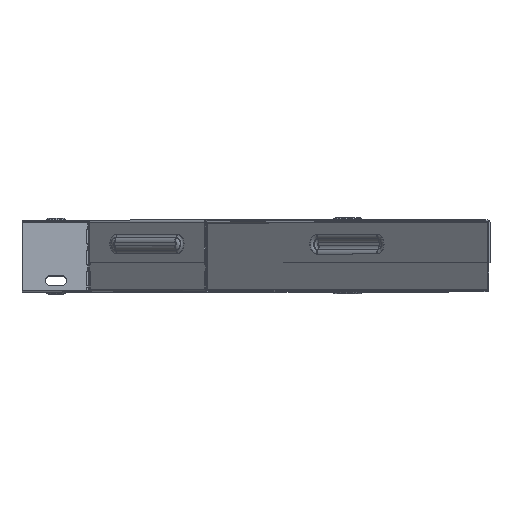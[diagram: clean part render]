
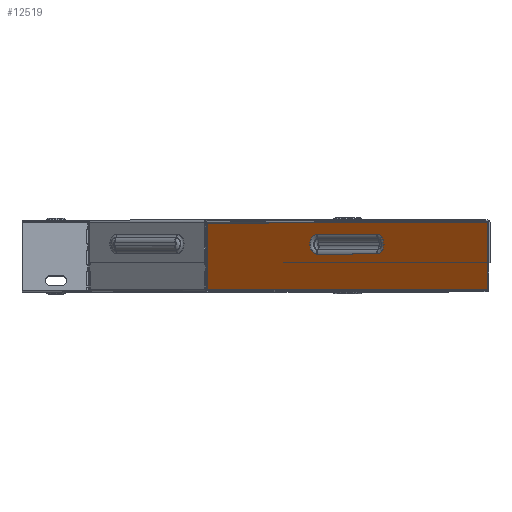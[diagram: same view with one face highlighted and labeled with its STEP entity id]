
A CAD part, top view. The second image highlights one B-rep face of the part: STEP entity #12519.
In plain terms, the highlighted planar face has unit normal (-0.707, 0, 0.707).
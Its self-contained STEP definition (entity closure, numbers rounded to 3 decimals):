
#365 = AXIS2_PLACEMENT_3D ( 'NONE', #15563, #9022, #11805 ) ;
#528 = ORIENTED_EDGE ( 'NONE', *, *, #14584, .F. ) ;
#778 = EDGE_CURVE ( 'NONE', #6801, #16542, #1925, .T. ) ;
#874 = LINE ( 'NONE', #6938, #10583 ) ;
#1364 = CARTESIAN_POINT ( 'NONE',  ( -35.255, 48.2, -164.123 ) ) ;
#1521 = ORIENTED_EDGE ( 'NONE', *, *, #1558, .F. ) ;
#1558 = EDGE_CURVE ( 'NONE', #13338, #8564, #8476, .T. ) ;
#1616 = LINE ( 'NONE', #14386, #16019 ) ;
#1640 = EDGE_CURVE ( 'NONE', #9270, #16183, #9327, .T. ) ;
#1674 = VECTOR ( 'NONE', #9017, 1000. ) ;
#1706 = DIRECTION ( 'NONE',  ( -0.707, 0., 0.707 ) ) ;
#1925 = LINE ( 'NONE', #5452, #15510 ) ;
#2412 = CARTESIAN_POINT ( 'NONE',  ( 85.648, 40.017, -43.221 ) ) ;
#2466 = ORIENTED_EDGE ( 'NONE', *, *, #778, .F. ) ;
#4251 = ORIENTED_EDGE ( 'NONE', *, *, #1640, .T. ) ;
#4671 = EDGE_LOOP ( 'NONE', ( #9967, #4251, #11336, #2466 ) ) ;
#4998 = VECTOR ( 'NONE', #14110, 1000. ) ;
#5002 = CARTESIAN_POINT ( 'NONE',  ( 43.221, 40.017, -85.648 ) ) ;
#5452 = CARTESIAN_POINT ( 'NONE',  ( -35.255, 0., -164.123 ) ) ;
#5974 = DIRECTION ( 'NONE',  ( 0.707, 0., 0.707 ) ) ;
#6080 = CARTESIAN_POINT ( 'NONE',  ( 43.221, 33.1, -85.648 ) ) ;
#6341 = CARTESIAN_POINT ( 'NONE',  ( 164.434, 1., 35.566 ) ) ;
#6505 = DIRECTION ( 'NONE',  ( 0.707, 0., 0.707 ) ) ;
#6801 = VERTEX_POINT ( 'NONE', #15095 ) ;
#6938 = CARTESIAN_POINT ( 'NONE',  ( 64.434, 40.017, -64.434 ) ) ;
#6986 = DIRECTION ( 'NONE',  ( -0.707, 0., -0.707 ) ) ;
#7545 = DIRECTION ( 'NONE',  ( -0.707, 0., 0.707 ) ) ;
#7807 = CARTESIAN_POINT ( 'NONE',  ( 164.123, 1., 35.255 ) ) ;
#8205 = EDGE_CURVE ( 'NONE', #10431, #13338, #10550, .T. ) ;
#8476 = LINE ( 'NONE', #13949, #12642 ) ;
#8564 = VERTEX_POINT ( 'NONE', #9824 ) ;
#9017 = DIRECTION ( 'NONE',  ( -0.707, 0., -0.707 ) ) ;
#9022 = DIRECTION ( 'NONE',  ( -0.707, 0., 0.707 ) ) ;
#9270 = VERTEX_POINT ( 'NONE', #7807 ) ;
#9327 = LINE ( 'NONE', #12750, #4998 ) ;
#9598 = CARTESIAN_POINT ( 'NONE',  ( 85.648, 33.1, -43.221 ) ) ;
#9810 = ORIENTED_EDGE ( 'NONE', *, *, #8205, .F. ) ;
#9824 = CARTESIAN_POINT ( 'NONE',  ( 85.648, 26.183, -43.221 ) ) ;
#9883 = EDGE_CURVE ( 'NONE', #16542, #16183, #1616, .T. ) ;
#9967 = ORIENTED_EDGE ( 'NONE', *, *, #15940, .F. ) ;
#10073 = AXIS2_PLACEMENT_3D ( 'NONE', #9598, #1706, #10941 ) ;
#10344 = PLANE ( 'NONE',  #365 ) ;
#10431 = VERTEX_POINT ( 'NONE', #5002 ) ;
#10550 = CIRCLE ( 'NONE', #14097, 6.917 ) ;
#10583 = VECTOR ( 'NONE', #6986, 1000. ) ;
#10941 = DIRECTION ( 'NONE',  ( 0., 1., 0. ) ) ;
#11022 = FACE_OUTER_BOUND ( 'NONE', #4671, .T. ) ;
#11336 = ORIENTED_EDGE ( 'NONE', *, *, #9883, .F. ) ;
#11397 = LINE ( 'NONE', #6341, #1674 ) ;
#11805 = DIRECTION ( 'NONE',  ( 0.707, 0., 0.707 ) ) ;
#12458 = CARTESIAN_POINT ( 'NONE',  ( 164.123, 48.2, 35.255 ) ) ;
#12519 = ADVANCED_FACE ( 'NONE', ( #15091, #11022 ), #10344, .T. ) ;
#12642 = VECTOR ( 'NONE', #5974, 1000. ) ;
#12750 = CARTESIAN_POINT ( 'NONE',  ( 164.123, 0., 35.255 ) ) ;
#12859 = DIRECTION ( 'NONE',  ( 0., 1., 0. ) ) ;
#13068 = ORIENTED_EDGE ( 'NONE', *, *, #14107, .F. ) ;
#13070 = CARTESIAN_POINT ( 'NONE',  ( 43.221, 26.183, -85.648 ) ) ;
#13237 = DIRECTION ( 'NONE',  ( 0., 1., 0. ) ) ;
#13338 = VERTEX_POINT ( 'NONE', #13070 ) ;
#13949 = CARTESIAN_POINT ( 'NONE',  ( 64.434, 26.183, -64.434 ) ) ;
#14097 = AXIS2_PLACEMENT_3D ( 'NONE', #6080, #7545, #12859 ) ;
#14107 = EDGE_CURVE ( 'NONE', #8564, #15929, #14901, .T. ) ;
#14110 = DIRECTION ( 'NONE',  ( 0., 1., 0. ) ) ;
#14386 = CARTESIAN_POINT ( 'NONE',  ( 164.434, 48.2, 35.566 ) ) ;
#14584 = EDGE_CURVE ( 'NONE', #15929, #10431, #874, .T. ) ;
#14901 = CIRCLE ( 'NONE', #10073, 6.917 ) ;
#15091 = FACE_BOUND ( 'NONE', #15128, .T. ) ;
#15095 = CARTESIAN_POINT ( 'NONE',  ( -35.255, 1., -164.123 ) ) ;
#15128 = EDGE_LOOP ( 'NONE', ( #9810, #528, #13068, #1521 ) ) ;
#15510 = VECTOR ( 'NONE', #13237, 1000. ) ;
#15563 = CARTESIAN_POINT ( 'NONE',  ( 64.434, 0., -64.434 ) ) ;
#15929 = VERTEX_POINT ( 'NONE', #2412 ) ;
#15940 = EDGE_CURVE ( 'NONE', #9270, #6801, #11397, .T. ) ;
#16019 = VECTOR ( 'NONE', #6505, 1000. ) ;
#16183 = VERTEX_POINT ( 'NONE', #12458 ) ;
#16542 = VERTEX_POINT ( 'NONE', #1364 ) ;
